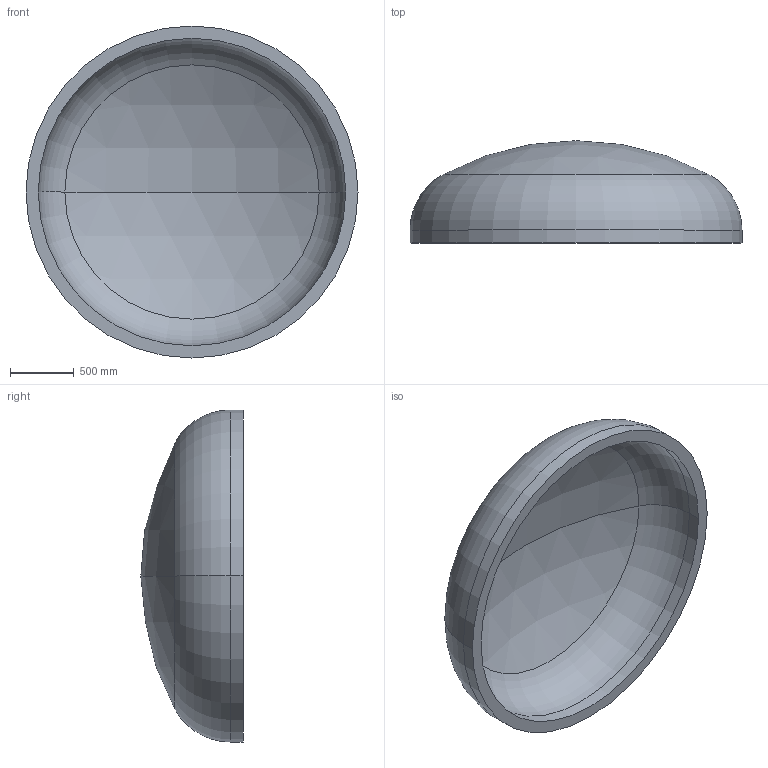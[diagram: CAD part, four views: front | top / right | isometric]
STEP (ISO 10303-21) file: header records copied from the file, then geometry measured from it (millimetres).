
FILE_DESCRIPTION (( 'STEP AP203' ), '1' );
FILE_NAME ('DIN 28013 Korbbogenform_-_Boden DIN 28013 - 2600 x 100 - I - s=96.step', '2016-07-01T16:30:11', ( '' ), ( '' ), 'SwSTEP 2.0', 'SolidWorks 2013', '' );
FILE_SCHEMA (( 'CONFIG_CONTROL_DESIGN' ));
Length unit declared in the file: millimetre
Products named in the file (1): DIN 28013 Korbbogenform_-_Boden DIN 28013 - 2600 x 100 - I - s=96
Bounding box: 2600 x 800.88 x 2600 mm (x, y, z)
Volume: 748240391 mm3; surface area: 16362827.2 mm2
Topology: 1 solids, 1 shells, 13 faces, 24 edges, 14 vertices
Faces by surface type: torus 4, cylinder 4, sphere 4, plane 1
Entity records: 407 total; most frequent: DIRECTION 72, CARTESIAN_POINT 52, ORIENTED_EDGE 48, AXIS2_PLACEMENT_3D 34, EDGE_CURVE 24, CIRCLE 20, EDGE_LOOP 14, VERTEX_POINT 14
